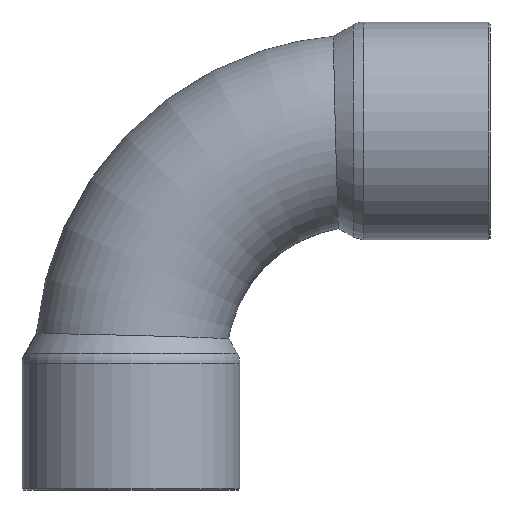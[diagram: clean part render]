
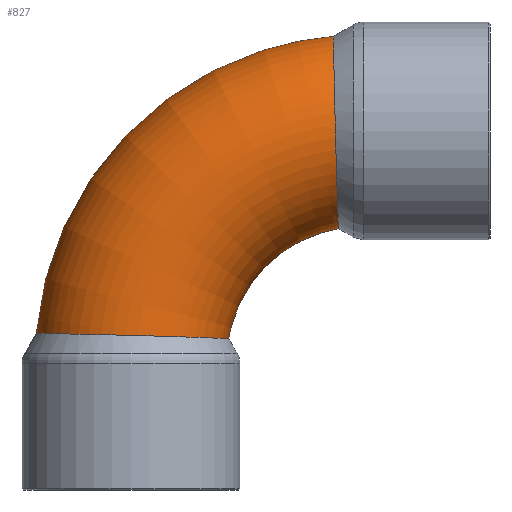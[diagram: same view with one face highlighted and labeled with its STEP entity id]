
A CAD part, left-side view. The second image highlights one B-rep face of the part: STEP entity #827.
In plain terms, the highlighted toroidal (fillet/blend) face has major radius 41.9 mm and minor radius 17.46 mm.
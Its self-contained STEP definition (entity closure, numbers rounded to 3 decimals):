
#444=CARTESIAN_POINT('',(0.,5.032,59.146));
#445=VERTEX_POINT('',#444);
#446=CARTESIAN_POINT('',(0.,5.032,59.146));
#447=CARTESIAN_POINT('',(2.093,5.032,59.146));
#448=CARTESIAN_POINT('',(4.168,5.026,58.769));
#449=CARTESIAN_POINT('',(8.29,4.998,57.221));
#450=CARTESIAN_POINT('',(10.269,4.975,55.988));
#451=CARTESIAN_POINT('',(13.634,4.913,52.821));
#452=CARTESIAN_POINT('',(14.986,4.875,50.919));
#453=CARTESIAN_POINT('',(16.875,4.783,46.697));
#454=CARTESIAN_POINT('',(17.393,4.73,44.418));
#455=CARTESIAN_POINT('',(17.515,4.612,39.782));
#456=CARTESIAN_POINT('',(17.116,4.547,37.471));
#457=CARTESIAN_POINT('',(15.456,4.416,33.173));
#458=CARTESIAN_POINT('',(14.226,4.351,31.222));
#459=CARTESIAN_POINT('',(11.24,4.236,28.064));
#460=CARTESIAN_POINT('',(9.571,4.186,26.828));
#461=CARTESIAN_POINT('',(6.176,4.117,25.143));
#462=CARTESIAN_POINT('',(4.523,4.093,24.61));
#463=CARTESIAN_POINT('',(1.845,4.074,24.169));
#464=CARTESIAN_POINT('',(0.859,4.071,24.092));
#465=CARTESIAN_POINT('',(-1.136,4.071,24.106));
#466=CARTESIAN_POINT('',(-2.143,4.075,24.202));
#467=CARTESIAN_POINT('',(-4.985,4.098,24.724));
#468=CARTESIAN_POINT('',(-6.766,4.126,25.362));
#469=CARTESIAN_POINT('',(-10.435,4.209,27.391));
#470=CARTESIAN_POINT('',(-12.215,4.268,28.901));
#471=CARTESIAN_POINT('',(-15.025,4.392,32.442));
#472=CARTESIAN_POINT('',(-16.059,4.456,34.416));
#473=CARTESIAN_POINT('',(-17.325,4.579,38.584));
#474=CARTESIAN_POINT('',(-17.568,4.637,40.736));
#475=CARTESIAN_POINT('',(-17.266,4.744,45.013));
#476=CARTESIAN_POINT('',(-16.726,4.792,47.104));
#477=CARTESIAN_POINT('',(-14.909,4.877,51.009));
#478=CARTESIAN_POINT('',(-13.639,4.912,52.785));
#479=CARTESIAN_POINT('',(-10.486,4.972,55.813));
#480=CARTESIAN_POINT('',(-8.62,4.994,57.025));
#481=CARTESIAN_POINT('',(-4.489,5.025,58.709));
#482=CARTESIAN_POINT('',(-2.255,5.032,59.146));
#483=CARTESIAN_POINT('',(0.0,5.032,59.146));
#484=B_SPLINE_CURVE_WITH_KNOTS('',3,(#446,#447,#448,#449,#450,#451,#452,#453,#454,#455,#456,#457,#458,#459,#460,#461,#462,#463,#464,#465,#466,#467,#468,#469,#470,#471,#472,#473,#474,#475,#476,#477,#478,#479,#480,#481,#482,#483),.UNSPECIFIED.,.T.,.U.,(4,2,2,2,2,2,2,2,2,2,2,2,2,2,2,2,2,2,4),(-11.022,-10.394,-9.701,-9.008,-8.313,-7.616,-6.931,-6.312,-5.794,-5.498,-5.195,-4.631,-3.937,-3.275,-2.63,-1.988,-1.338,-0.677,0.0),.UNSPECIFIED.);
#485=EDGE_CURVE('',#445,#445,#484,.T.);
#686=CARTESIAN_POINT('',(0.0,59.146,5.032));
#687=VERTEX_POINT('',#686);
#688=CARTESIAN_POINT('',(0.0,59.146,5.032));
#689=CARTESIAN_POINT('',(-2.093,59.146,5.032));
#690=CARTESIAN_POINT('',(-4.168,58.769,5.026));
#691=CARTESIAN_POINT('',(-8.29,57.221,4.998));
#692=CARTESIAN_POINT('',(-10.269,55.988,4.975));
#693=CARTESIAN_POINT('',(-13.634,52.821,4.913));
#694=CARTESIAN_POINT('',(-14.986,50.919,4.875));
#695=CARTESIAN_POINT('',(-16.875,46.697,4.783));
#696=CARTESIAN_POINT('',(-17.393,44.418,4.73));
#697=CARTESIAN_POINT('',(-17.515,39.782,4.612));
#698=CARTESIAN_POINT('',(-17.116,37.471,4.547));
#699=CARTESIAN_POINT('',(-15.456,33.173,4.416));
#700=CARTESIAN_POINT('',(-14.226,31.222,4.351));
#701=CARTESIAN_POINT('',(-11.24,28.064,4.236));
#702=CARTESIAN_POINT('',(-9.571,26.828,4.186));
#703=CARTESIAN_POINT('',(-6.176,25.143,4.117));
#704=CARTESIAN_POINT('',(-4.523,24.61,4.093));
#705=CARTESIAN_POINT('',(-1.845,24.169,4.074));
#706=CARTESIAN_POINT('',(-0.859,24.092,4.071));
#707=CARTESIAN_POINT('',(1.136,24.106,4.071));
#708=CARTESIAN_POINT('',(2.143,24.202,4.075));
#709=CARTESIAN_POINT('',(4.985,24.724,4.098));
#710=CARTESIAN_POINT('',(6.766,25.362,4.126));
#711=CARTESIAN_POINT('',(10.435,27.391,4.209));
#712=CARTESIAN_POINT('',(12.215,28.901,4.268));
#713=CARTESIAN_POINT('',(15.025,32.442,4.392));
#714=CARTESIAN_POINT('',(16.059,34.416,4.456));
#715=CARTESIAN_POINT('',(17.325,38.584,4.579));
#716=CARTESIAN_POINT('',(17.568,40.736,4.637));
#717=CARTESIAN_POINT('',(17.266,45.013,4.744));
#718=CARTESIAN_POINT('',(16.726,47.104,4.792));
#719=CARTESIAN_POINT('',(14.909,51.009,4.877));
#720=CARTESIAN_POINT('',(13.639,52.785,4.912));
#721=CARTESIAN_POINT('',(10.486,55.813,4.972));
#722=CARTESIAN_POINT('',(8.62,57.025,4.994));
#723=CARTESIAN_POINT('',(4.489,58.709,5.025));
#724=CARTESIAN_POINT('',(2.255,59.146,5.032));
#725=CARTESIAN_POINT('',(0.,59.146,5.032));
#726=B_SPLINE_CURVE_WITH_KNOTS('',3,(#688,#689,#690,#691,#692,#693,#694,#695,#696,#697,#698,#699,#700,#701,#702,#703,#704,#705,#706,#707,#708,#709,#710,#711,#712,#713,#714,#715,#716,#717,#718,#719,#720,#721,#722,#723,#724,#725),.UNSPECIFIED.,.T.,.U.,(4,2,2,2,2,2,2,2,2,2,2,2,2,2,2,2,2,2,4),(-11.022,-10.394,-9.701,-9.008,-8.313,-7.616,-6.931,-6.312,-5.794,-5.498,-5.195,-4.631,-3.937,-3.275,-2.63,-1.988,-1.338,-0.677,0.0),.UNSPECIFIED.);
#727=EDGE_CURVE('',#687,#687,#726,.T.);
#816=CARTESIAN_POINT('',(0.0,0.0,0.0));
#817=DIRECTION('',(1.0,0.0,0.0));
#818=DIRECTION('',(0.0,0.0,-1.0));
#819=AXIS2_PLACEMENT_3D('',#816,#817,#818);
#820=TOROIDAL_SURFACE('',#819,41.9,17.46);
#821=ORIENTED_EDGE('',*,*,#485,.T.);
#822=EDGE_LOOP('',(#821));
#823=FACE_OUTER_BOUND('',#822,.T.);
#824=ORIENTED_EDGE('',*,*,#727,.T.);
#825=EDGE_LOOP('',(#824));
#826=FACE_BOUND('',#825,.T.);
#827=ADVANCED_FACE('',(#823,#826),#820,.T.);
